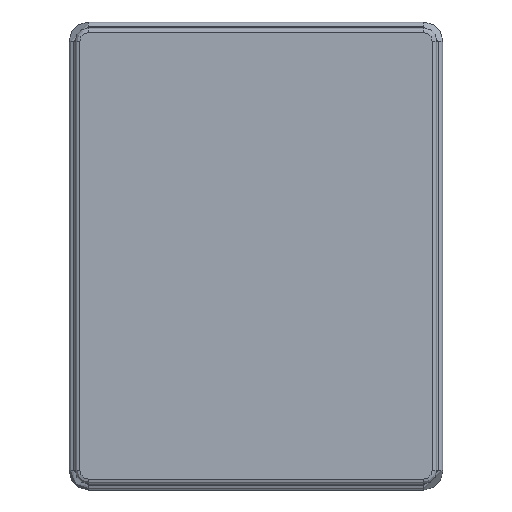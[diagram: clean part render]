
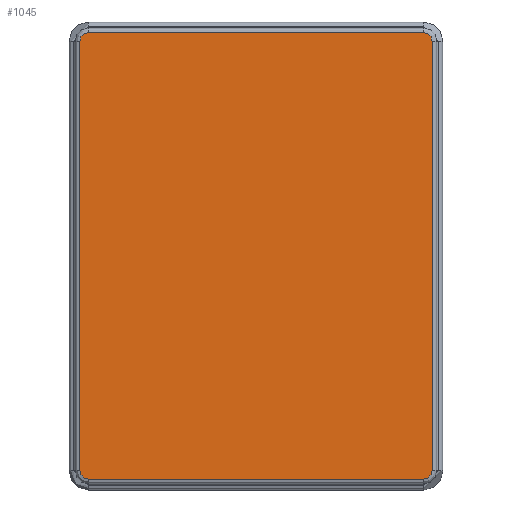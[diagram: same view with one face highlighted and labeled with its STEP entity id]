
A CAD part, top view. The second image highlights one B-rep face of the part: STEP entity #1045.
In plain terms, the highlighted planar face has unit normal (0, 0, 1).
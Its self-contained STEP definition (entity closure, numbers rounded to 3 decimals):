
#879=CIRCLE('',#4214,4.5);
#880=CIRCLE('',#4216,4.5);
#882=CIRCLE('',#4219,4.5);
#883=CIRCLE('',#4221,4.5);
#1045=ADVANCED_FACE('',(#1281),#1133,.T.);
#1133=PLANE('',#4223);
#1281=FACE_OUTER_BOUND('',#1475,.T.);
#1475=EDGE_LOOP('',(#2272,#2273,#2274,#2275,#2276,#2277,#2278,#2279));
#2272=ORIENTED_EDGE('',*,*,#3254,.T.);
#2273=ORIENTED_EDGE('',*,*,#3260,.T.);
#2274=ORIENTED_EDGE('',*,*,#3247,.T.);
#2275=ORIENTED_EDGE('',*,*,#3261,.T.);
#2276=ORIENTED_EDGE('',*,*,#3243,.T.);
#2277=ORIENTED_EDGE('',*,*,#3263,.T.);
#2278=ORIENTED_EDGE('',*,*,#3255,.T.);
#2279=ORIENTED_EDGE('',*,*,#3264,.T.);
#2708=VERTEX_POINT('',#7232);
#2709=VERTEX_POINT('',#7233);
#2711=VERTEX_POINT('',#7240);
#2712=VERTEX_POINT('',#7241);
#2715=VERTEX_POINT('',#7249);
#2717=VERTEX_POINT('',#7253);
#2718=VERTEX_POINT('',#7257);
#2719=VERTEX_POINT('',#7258);
#3243=EDGE_CURVE('',#2708,#2709,#3604,.T.);
#3247=EDGE_CURVE('',#2711,#2712,#3606,.T.);
#3254=EDGE_CURVE('',#2715,#2717,#3609,.T.);
#3255=EDGE_CURVE('',#2718,#2719,#3610,.T.);
#3260=EDGE_CURVE('',#2717,#2711,#879,.T.);
#3261=EDGE_CURVE('',#2712,#2708,#880,.T.);
#3263=EDGE_CURVE('',#2709,#2718,#882,.T.);
#3264=EDGE_CURVE('',#2719,#2715,#883,.T.);
#3604=LINE('',#7231,#3892);
#3606=LINE('',#7239,#3894);
#3609=LINE('',#7254,#3897);
#3610=LINE('',#7256,#3898);
#3892=VECTOR('',#5108,1.);
#3894=VECTOR('',#5116,1.);
#3897=VECTOR('',#5129,1.);
#3898=VECTOR('',#5132,1.);
#4214=AXIS2_PLACEMENT_3D('',#7264,#5142,#5143);
#4216=AXIS2_PLACEMENT_3D('',#7266,#5146,#5147);
#4219=AXIS2_PLACEMENT_3D('',#7269,#5152,#5153);
#4221=AXIS2_PLACEMENT_3D('',#7271,#5156,#5157);
#4223=AXIS2_PLACEMENT_3D('',#7273,#5160,#5161);
#5108=DIRECTION('',(1.,0.,0.));
#5116=DIRECTION('',(0.,-1.,0.));
#5129=DIRECTION('',(-1.,0.,0.));
#5132=DIRECTION('',(0.,1.,0.));
#5142=DIRECTION('',(0.,0.,1.));
#5143=DIRECTION('',(-1.,0.,0.));
#5146=DIRECTION('',(0.,0.,1.));
#5147=DIRECTION('',(-1.,0.,0.));
#5152=DIRECTION('',(0.,0.,1.));
#5153=DIRECTION('',(-1.,0.,0.));
#5156=DIRECTION('',(0.,0.,1.));
#5157=DIRECTION('',(-1.,0.,0.));
#5160=DIRECTION('',(0.,0.,1.));
#5161=DIRECTION('',(1.,0.,0.));
#7231=CARTESIAN_POINT('',(-89.,-118.5,24.5));
#7232=CARTESIAN_POINT('',(-89.,-118.5,24.5));
#7233=CARTESIAN_POINT('',(89.,-118.5,24.5));
#7239=CARTESIAN_POINT('',(-93.5,114.,24.5));
#7240=CARTESIAN_POINT('',(-93.5,114.,24.5));
#7241=CARTESIAN_POINT('',(-93.5,-114.,24.5));
#7249=CARTESIAN_POINT('',(89.,118.5,24.5));
#7253=CARTESIAN_POINT('',(-89.,118.5,24.5));
#7254=CARTESIAN_POINT('',(89.,118.5,24.5));
#7256=CARTESIAN_POINT('',(93.5,-114.,24.5));
#7257=CARTESIAN_POINT('',(93.5,-114.,24.5));
#7258=CARTESIAN_POINT('',(93.5,114.,24.5));
#7264=CARTESIAN_POINT('',(-89.,114.,24.5));
#7266=CARTESIAN_POINT('',(-89.,-114.,24.5));
#7269=CARTESIAN_POINT('',(89.,-114.,24.5));
#7271=CARTESIAN_POINT('',(89.,114.,24.5));
#7273=CARTESIAN_POINT('',(115.201,145.201,24.5));
